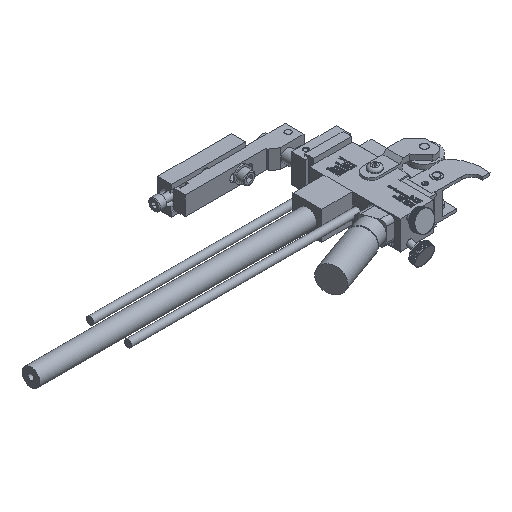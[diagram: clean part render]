
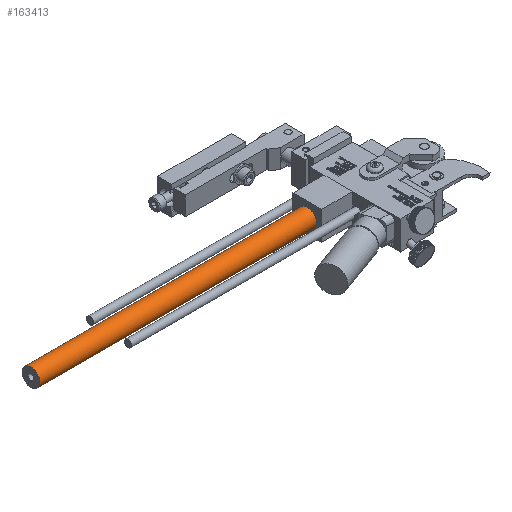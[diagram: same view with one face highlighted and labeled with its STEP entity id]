
A CAD part, isometric view. The second image highlights one B-rep face of the part: STEP entity #163413.
In plain terms, the highlighted cylindrical face has radius 5.969 mm (diameter 11.938 mm), a full revolution.
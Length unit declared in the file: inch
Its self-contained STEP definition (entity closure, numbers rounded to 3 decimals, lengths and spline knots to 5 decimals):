
#163091=CARTESIAN_POINT('',(-1.4995,0.8125,0.61));
#163092=VERTEX_POINT('',#163091);
#163093=CARTESIAN_POINT('',(-1.4995,0.8125,0.375));
#163094=DIRECTION('',(1.0,0.0,0.0));
#163095=DIRECTION('',(0.0,0.0,-1.0));
#163096=AXIS2_PLACEMENT_3D('',#163093,#163094,#163095);
#163097=CIRCLE('',#163096,0.235);
#163098=EDGE_CURVE('',#163092,#163092,#163097,.T.);
#163379=CARTESIAN_POINT('',(-8.7495,0.8125,0.61));
#163380=VERTEX_POINT('',#163379);
#163381=CARTESIAN_POINT('',(-8.7495,0.8125,0.375));
#163382=DIRECTION('',(1.0,0.0,0.0));
#163383=DIRECTION('',(0.0,0.0,-1.0));
#163384=AXIS2_PLACEMENT_3D('',#163381,#163382,#163383);
#163385=CIRCLE('',#163384,0.235);
#163386=EDGE_CURVE('',#163380,#163380,#163385,.T.);
#163402=CARTESIAN_POINT('',(-1.4995,0.8125,0.375));
#163403=DIRECTION('',(-1.0,0.,0.));
#163404=DIRECTION('',(0.0,0.0,-1.0));
#163405=AXIS2_PLACEMENT_3D('',#163402,#163403,#163404);
#163406=CYLINDRICAL_SURFACE('',#163405,0.235);
#163407=ORIENTED_EDGE('',*,*,#163386,.T.);
#163408=EDGE_LOOP('',(#163407));
#163409=FACE_OUTER_BOUND('',#163408,.T.);
#163410=ORIENTED_EDGE('',*,*,#163098,.F.);
#163411=EDGE_LOOP('',(#163410));
#163412=FACE_BOUND('',#163411,.T.);
#163413=ADVANCED_FACE('',(#163409,#163412),#163406,.T.);
